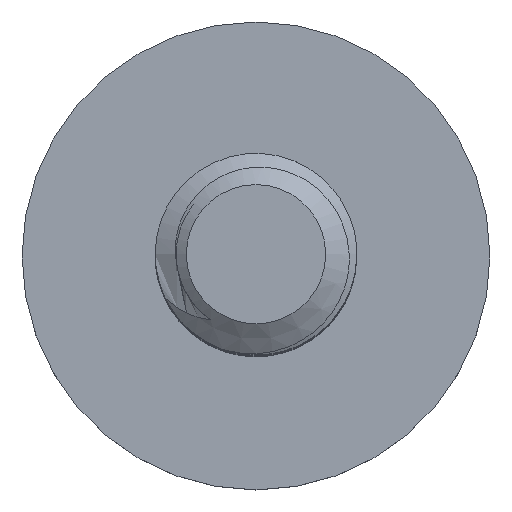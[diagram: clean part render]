
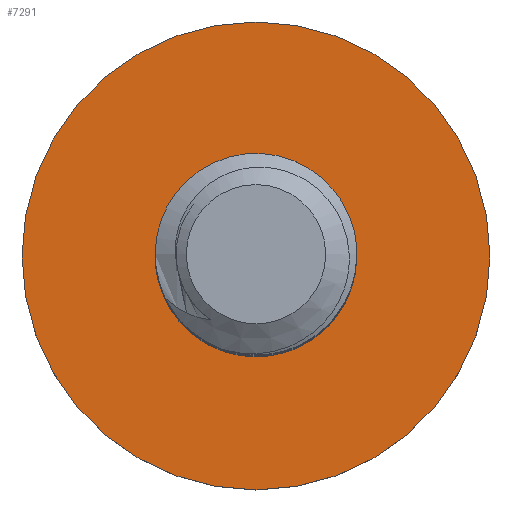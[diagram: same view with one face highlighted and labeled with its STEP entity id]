
A CAD part, top view. The second image highlights one B-rep face of the part: STEP entity #7291.
In plain terms, the highlighted planar face has unit normal (0, 0, 1).
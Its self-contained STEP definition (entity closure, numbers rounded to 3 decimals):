
#928=CARTESIAN_POINT('',(2.5,0.,-25.0));
#929=VERTEX_POINT('',#928);
#6831=CARTESIAN_POINT('',(1.752,1.784,-25.));
#6832=VERTEX_POINT('',#6831);
#7116=CARTESIAN_POINT('',(0.,0.,-25.0));
#7117=DIRECTION('',(0.0,0.0,1.0));
#7118=DIRECTION('',(-1.0,0.0,0.0));
#7119=AXIS2_PLACEMENT_3D('',#7116,#7117,#7118);
#7120=CIRCLE('',#7119,2.5);
#7121=EDGE_CURVE('',#6832,#929,#7120,.T.);
#7216=CARTESIAN_POINT('',(0.0,0.0,-25.0));
#7217=DIRECTION('',(0.0,0.0,1.0));
#7218=DIRECTION('',(1.0,0.0,0.0));
#7219=AXIS2_PLACEMENT_3D('',#7216,#7217,#7218);
#7220=CIRCLE('',#7219,2.5);
#7221=EDGE_CURVE('',#929,#6832,#7220,.T.);
#7271=CARTESIAN_POINT('',(0.0,0.0,-25.0));
#7272=DIRECTION('',(0.0,0.0,-1.0));
#7273=DIRECTION('',(-1.0,0.0,0.0));
#7274=AXIS2_PLACEMENT_3D('',#7271,#7272,#7273);
#7275=PLANE('',#7274);
#7276=CARTESIAN_POINT('',(5.8,0.0,-25.0));
#7277=VERTEX_POINT('',#7276);
#7278=CARTESIAN_POINT('',(0.0,0.0,-25.0));
#7279=DIRECTION('',(0.0,0.0,1.0));
#7280=DIRECTION('',(1.0,0.0,0.0));
#7281=AXIS2_PLACEMENT_3D('',#7278,#7279,#7280);
#7282=CIRCLE('',#7281,5.8);
#7283=EDGE_CURVE('',#7277,#7277,#7282,.T.);
#7284=ORIENTED_EDGE('',*,*,#7283,.T.);
#7285=EDGE_LOOP('',(#7284));
#7286=FACE_OUTER_BOUND('',#7285,.T.);
#7287=ORIENTED_EDGE('',*,*,#7121,.F.);
#7288=ORIENTED_EDGE('',*,*,#7221,.F.);
#7289=EDGE_LOOP('',(#7287,#7288));
#7290=FACE_BOUND('',#7289,.T.);
#7291=ADVANCED_FACE('',(#7286,#7290),#7275,.F.);
